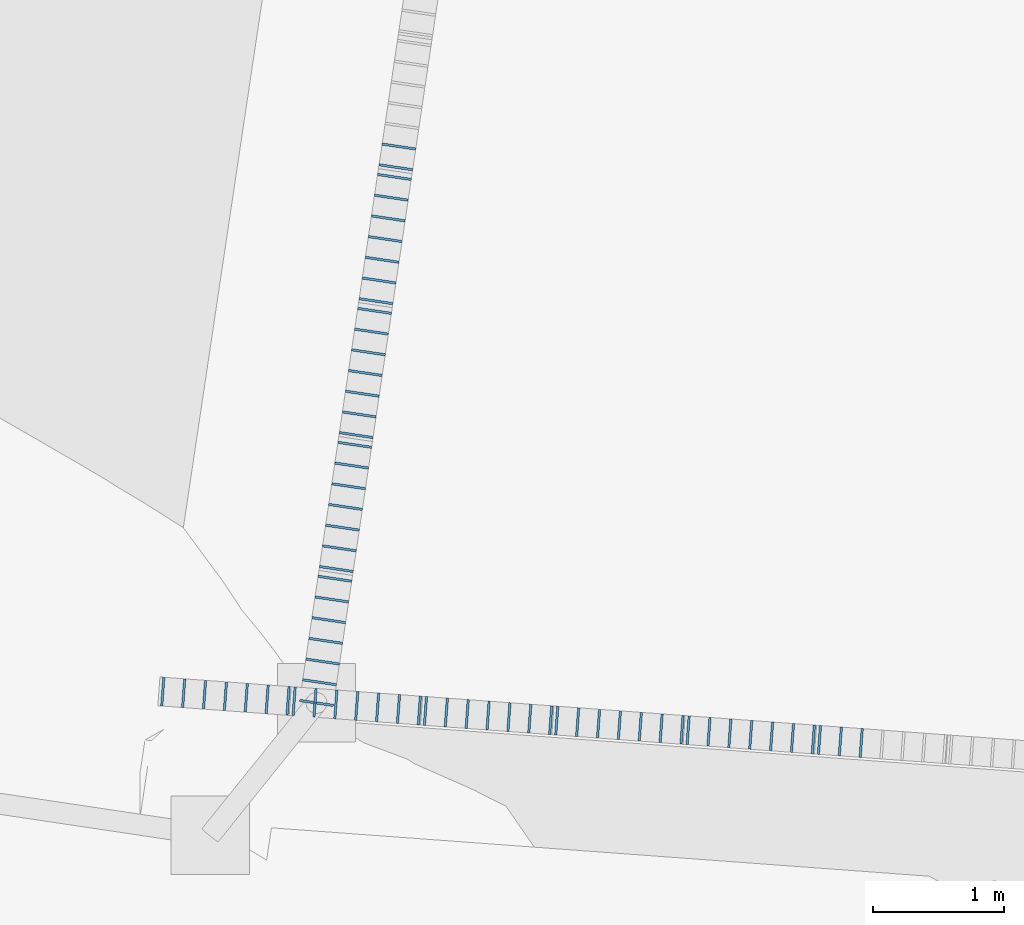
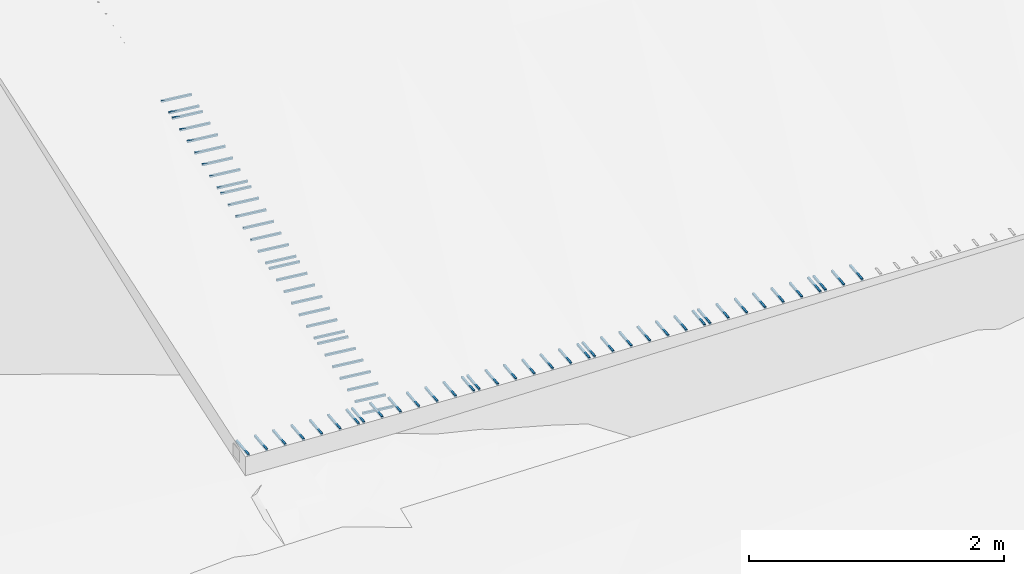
# Not in any storey, part 15 of 72: 68 members.
"""IFC4 model written with IfcOpenShell, lengths in metres."""

import ifcopenshell
import ifcopenshell.guid

model = None  # the IFC model being written
_history = None  # IfcOwnerHistory: only IFC2X3 demands one
_inside = {}  # id of a spatial element -> (the spatial element, [elements in it])
_under = {}  # id of a project, library or spatial element -> (it, [spatial elements below it])
_declared = {}  # id of a project -> (the project, [libraries it declares])
_typed = {}  # id of a type object -> (the type object, [elements of that type])
_made_of = {}  # id of a material, layer set ... -> (it, [elements and type objects made of it])


def new_model(schema):
    """Start an empty IFC model of exactly this schema.

    Asked for "IFC4X3", IfcOpenShell would pick the latest addendum, in which some entities
    have other attributes; the version numbers below select the first issue.
    IFC2X3 requires an IfcOwnerHistory on every rooted entity: one is made here for all.
    """
    global model, _history
    if schema == "IFC4X3":
        model = ifcopenshell.file(schema_version=(4, 3, 0, 0))
    else:
        model = ifcopenshell.file(schema=schema)
    _inside.clear()
    _under.clear()
    _declared.clear()
    _typed.clear()
    _made_of.clear()
    _history = None
    if model.schema == "IFC2X3":
        org = make("IfcOrganization", Name="unknown")
        user = make(
            "IfcPersonAndOrganization",
            ThePerson=make("IfcPerson", FamilyName="unknown"),
            TheOrganization=org,
        )
        app = make(
            "IfcApplication",
            ApplicationDeveloper=org,
            Version="unknown",
            ApplicationFullName="unknown",
            ApplicationIdentifier="unknown",
        )
        _history = make(
            "IfcOwnerHistory",
            OwningUser=user,
            OwningApplication=app,
            ChangeAction="ADDED",
            CreationDate=0,
        )
    return model


def make(cls, **values):
    """One entity of the class cls with the attributes given. An attribute that is None is left unset."""
    return model.create_entity(
        cls, **{name: value for name, value in values.items() if value is not None}
    )


def rooted(cls, **values):
    """An entity with a GlobalId (a new one), such as an element, a storey or a relation."""
    return make(cls, GlobalId=ifcopenshell.guid.new(), OwnerHistory=_history, **values)


def si_unit(unit_type, name, prefix=None):
    """IfcSIUnit, for example si_unit("LENGTHUNIT", "METRE", prefix="MILLI")."""
    return make("IfcSIUnit", UnitType=unit_type, Prefix=prefix, Name=name)


def assignment(units):
    """IfcUnitAssignment: the units of a project."""
    return None if units is None else make("IfcUnitAssignment", Units=units)


def point(xyz):
    """IfcCartesianPoint."""
    return None if xyz is None else make("IfcCartesianPoint", Coordinates=xyz)


def direction(xyz):
    """IfcDirection."""
    return None if xyz is None else make("IfcDirection", DirectionRatios=xyz)


def frame(location, z_axis=None, x_axis=None):
    """IfcAxis2Placement3D, a coordinate frame: its origin and axes. An axis left out is left unset."""
    return make(
        "IfcAxis2Placement3D",
        Location=point(location),
        Axis=direction(z_axis),
        RefDirection=direction(x_axis),
    )


def origin_with_axes():
    """The frame at (0, 0, 0) with the z axis (0, 0, 1) and the x axis (1, 0, 0) written out."""
    return frame((0.0, 0.0, 0.0), z_axis=(0.0, 0.0, 1.0), x_axis=(1.0, 0.0, 0.0))


def place(relative_to, where):
    """IfcLocalPlacement: puts the frame where relative to a parent placement (None: the world)."""
    return make(
        "IfcLocalPlacement", PlacementRelTo=relative_to, RelativePlacement=where
    )


def context(
    kind, dimensions, precision=None, world=None, true_north=None, identifier=None
):
    """IfcGeometricRepresentationContext, for example the 3D "Model" context."""
    return make(
        "IfcGeometricRepresentationContext",
        ContextIdentifier=identifier,
        ContextType=kind,
        CoordinateSpaceDimension=dimensions,
        Precision=precision,
        WorldCoordinateSystem=world,
        TrueNorth=true_north,
    )


def subcontext(parent, identifier, kind, view, scale=None):
    """IfcGeometricRepresentationSubContext, for example "Body" below "Model"."""
    return make(
        "IfcGeometricRepresentationSubContext",
        ContextIdentifier=identifier,
        ContextType=kind,
        ParentContext=parent,
        TargetScale=scale,
        TargetView=view,
    )


def project(units=None, contexts=None):
    """IfcProject with its units and contexts."""
    return rooted(
        "IfcProject",
        Name="project",
        RepresentationContexts=contexts,
        UnitsInContext=assignment(units),
    )


def spatial(cls, under=None, at=None, **own):
    """A site, building, storey or space (cls), placed at a placement, below another one or the project."""
    s = rooted(cls, ObjectPlacement=at, **own)
    if under is not None:
        _under.setdefault(under.id(), (under, []))[1].append(s)
    return s


def profile(cls, at=None, kind="AREA", **sizes):
    """A parametric profile (cls). Its sizes go by their IFC names, for example OverallWidth=200.0."""
    return make(cls, ProfileType=kind, Position=at, **sizes)


def rectangle(**sizes):
    """IfcRectangleProfileDef."""
    return profile("IfcRectangleProfileDef", **sizes)


def extrude(swept, where, along, depth):
    """IfcExtrudedAreaSolid: the profile swept, set in the frame where, extruded along a direction by depth."""
    return make(
        "IfcExtrudedAreaSolid",
        SweptArea=swept,
        Position=where,
        ExtrudedDirection=direction(along),
        Depth=depth,
    )


def shape(context_of_items, identifier, shape_type, items):
    """IfcShapeRepresentation: the items that make up one representation, for example the "Body"."""
    return make(
        "IfcShapeRepresentation",
        ContextOfItems=context_of_items,
        RepresentationIdentifier=identifier,
        RepresentationType=shape_type,
        Items=items,
    )


def material(Name=None, Category=None):
    """IfcMaterial."""
    return make("IfcMaterial", Name=Name, Category=Category)


def material_profile(
    of_material, cross_section, Name=None, Category=None, Priority=None
):
    """IfcMaterialProfile: a cross section and its material."""
    return make(
        "IfcMaterialProfile",
        Name=Name,
        Material=of_material,
        Profile=cross_section,
        Priority=Priority,
        Category=Category,
    )


def profile_set(profiles, Name=None, composite=None):
    """IfcMaterialProfileSet."""
    return make(
        "IfcMaterialProfileSet",
        Name=Name,
        MaterialProfiles=profiles,
        CompositeProfile=composite,
    )


def profile_usage(for_profile_set, cardinal=None, extent=None):
    """IfcMaterialProfileSetUsage: how a profile set lies along its element."""
    return make(
        "IfcMaterialProfileSetUsage",
        ForProfileSet=for_profile_set,
        CardinalPoint=cardinal,
        ReferenceExtent=extent,
    )


def made_of(thing, what):
    """Note that an element or type object is made of a material, layer set ...; save() writes the relation."""
    if what is not None:
        _made_of.setdefault(what.id(), (what, []))[1].append(thing)
    return thing


def type_object(cls, material=None, **own):
    """A type object (cls), such as IfcWallType, which elements share."""
    return made_of(rooted(cls, **own), material)


def element(
    cls,
    number,
    at=None,
    inside=None,
    cuts=None,
    type_object=None,
    material=None,
    context=None,
    identifier="Body",
    shape_type=None,
    held_by="IfcProductDefinitionShape",
    body=None,
    shapes=None,
    **own,
):
    """One element of the class cls, such as IfcWall. Its Tag is "e" and its number.

    at: its placement. inside: the storey or other place that contains it. cuts: it is an
    opening in that element (IfcRelVoidsElement). A single representation is given by context,
    identifier, shape_type and body (its items); several are given by shapes. held_by: the class
    of the entity that holds the representations. save() writes the other relations.
    """
    e = rooted(cls, Tag="e%d" % number, ObjectPlacement=at, **own)
    if body is not None:
        shapes = [shape(context, identifier, shape_type, body)]
    if shapes is not None:
        e.Representation = make(held_by, Representations=shapes)
    if inside is not None:
        _inside.setdefault(inside.id(), (inside, []))[1].append(e)
    if cuts is not None:
        rooted(
            "IfcRelVoidsElement", RelatingBuildingElement=cuts, RelatedOpeningElement=e
        )
    if type_object is not None:
        _typed.setdefault(type_object.id(), (type_object, []))[1].append(e)
    return made_of(e, material)


def aggregate(whole, parts):
    """IfcRelAggregates: a whole, such as a stair, and the parts it consists of."""
    return rooted("IfcRelAggregates", RelatingObject=whole, RelatedObjects=parts)


def save(model, path):
    """Write the relations noted so far, then the file.

    IfcRelAggregates (storeys below a building ...), IfcRelContainedInSpatialStructure (elements
    in a storey), IfcRelDefinesByType, IfcRelAssociatesMaterial and IfcRelDeclares: one each for
    every whole, place, type object, material and project.
    """
    for whole, parts in _under.values():
        aggregate(whole, parts)
    for where, things in _inside.values():
        rooted(
            "IfcRelContainedInSpatialStructure",
            RelatedElements=things,
            RelatingStructure=where,
        )
    for kind, things in _typed.values():
        rooted("IfcRelDefinesByType", RelatedObjects=things, RelatingType=kind)
    for what, things in _made_of.values():
        rooted("IfcRelAssociatesMaterial", RelatedObjects=things, RelatingMaterial=what)
    for by, libraries in _declared.values():
        rooted("IfcRelDeclares", RelatingContext=by, RelatedDefinitions=libraries)
    model.write(path)


model = new_model("IFC4")

# Units and contexts
model_context = context("Model", 3, precision=1e-05, world=origin_with_axes(), true_north=direction((0.0, 1.0)))
body_context = subcontext(model_context, "Body", "Model", "MODEL_VIEW")
ifc_project = project(units=[si_unit("AREAUNIT", "SQUARE_METRE"), si_unit("VOLUMEUNIT", "CUBIC_METRE"), si_unit("LENGTHUNIT", "METRE")], contexts=[model_context])

# Site
site_placement = place(None, origin_with_axes())
site = spatial("IfcSite", under=ifc_project, at=site_placement, Name="Lares · Rua das Mercês · artigo 4771")

# Members
ifc_material = material(Name="Aço galvanizado / Stahl verzinkt", Category="steel")
ifc_material_profile = material_profile(ifc_material, rectangle(XDim=0.018, YDim=0.018))
ifc_profile_set = profile_set([ifc_material_profile], Name="R0.018")
ifc_profile_usage_1 = profile_usage(ifc_profile_set)
member_type = type_object("IfcMemberType", Name="R0.018 / galvanized", PredefinedType="NOTDEFINED", material=ifc_profile_set)
member_1_placement = place(site_placement, frame((46.6781659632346, 3.21903756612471, 14.4967569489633), z_axis=(0.0733060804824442, 0.997309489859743, 0.0), x_axis=(0.997309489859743, -0.0733060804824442, 0.0)))
element("IfcMember", 1, at=member_1_placement, inside=site, type_object=member_type, material=ifc_profile_usage_1, Name="Acesso · dreno lateral raso · grelha", context=body_context, shape_type="SweptSolid", body=[
    extrude(rectangle(XDim=0.018, YDim=0.018), origin_with_axes(), (0.0, 0.0, 1.0), 0.22),
])
ifc_profile_usage_2 = profile_usage(ifc_profile_set)
member_2_placement = place(site_placement, frame((46.8377354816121, 3.20730859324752, 14.4975940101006), z_axis=(0.0733060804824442, 0.997309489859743, 0.0), x_axis=(0.997309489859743, -0.0733060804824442, 0.0)))
element("IfcMember", 2, at=member_2_placement, inside=site, type_object=member_type, material=ifc_profile_usage_2, Name="Acesso · dreno lateral raso · grelha", context=body_context, shape_type="SweptSolid", body=[
    extrude(rectangle(XDim=0.018, YDim=0.018), origin_with_axes(), (0.0, 0.0, 1.0), 0.22),
])
ifc_profile_usage_3 = profile_usage(ifc_profile_set)
member_3_placement = place(site_placement, frame((46.9973049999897, 3.19557962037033, 14.498431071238), z_axis=(0.0733060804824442, 0.997309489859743, 0.0), x_axis=(0.997309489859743, -0.0733060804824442, 0.0)))
element("IfcMember", 3, at=member_3_placement, inside=site, type_object=member_type, material=ifc_profile_usage_3, Name="Acesso · dreno lateral raso · grelha", context=body_context, shape_type="SweptSolid", body=[
    extrude(rectangle(XDim=0.018, YDim=0.018), origin_with_axes(), (0.0, 0.0, 1.0), 0.22),
])
ifc_profile_usage_4 = profile_usage(ifc_profile_set)
member_4_placement = place(site_placement, frame((47.1568745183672, 3.18385064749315, 14.4992681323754), z_axis=(0.0733060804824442, 0.997309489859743, 0.0), x_axis=(0.997309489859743, -0.0733060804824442, 0.0)))
element("IfcMember", 4, at=member_4_placement, inside=site, type_object=member_type, material=ifc_profile_usage_4, Name="Acesso · dreno lateral raso · grelha", context=body_context, shape_type="SweptSolid", body=[
    extrude(rectangle(XDim=0.018, YDim=0.018), origin_with_axes(), (0.0, 0.0, 1.0), 0.22),
])
ifc_profile_usage_5 = profile_usage(ifc_profile_set)
member_5_placement = place(site_placement, frame((47.3164440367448, 3.17212167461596, 14.5001051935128), z_axis=(0.0733060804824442, 0.997309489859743, 0.0), x_axis=(0.997309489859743, -0.0733060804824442, 0.0)))
element("IfcMember", 5, at=member_5_placement, inside=site, type_object=member_type, material=ifc_profile_usage_5, Name="Acesso · dreno lateral raso · grelha", context=body_context, shape_type="SweptSolid", body=[
    extrude(rectangle(XDim=0.018, YDim=0.018), origin_with_axes(), (0.0, 0.0, 1.0), 0.22),
])
ifc_profile_usage_6 = profile_usage(ifc_profile_set)
member_6_placement = place(site_placement, frame((47.4760135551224, 3.16039270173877, 14.5009422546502), z_axis=(0.0733060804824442, 0.997309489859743, 0.0), x_axis=(0.997309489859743, -0.0733060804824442, 0.0)))
element("IfcMember", 6, at=member_6_placement, inside=site, type_object=member_type, material=ifc_profile_usage_6, Name="Acesso · dreno lateral raso · grelha", context=body_context, shape_type="SweptSolid", body=[
    extrude(rectangle(XDim=0.018, YDim=0.018), origin_with_axes(), (0.0, 0.0, 1.0), 0.22),
])
ifc_profile_usage_7 = profile_usage(ifc_profile_set)
member_7_placement = place(site_placement, frame((47.6355830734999, 3.14866372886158, 14.5017793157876), z_axis=(0.0733060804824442, 0.997309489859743, 0.0), x_axis=(0.997309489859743, -0.0733060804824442, 0.0)))
element("IfcMember", 7, at=member_7_placement, inside=site, type_object=member_type, material=ifc_profile_usage_7, Name="Acesso · dreno lateral raso · grelha", context=body_context, shape_type="SweptSolid", body=[
    extrude(rectangle(XDim=0.018, YDim=0.018), origin_with_axes(), (0.0, 0.0, 1.0), 0.22),
])
ifc_profile_usage_8 = profile_usage(ifc_profile_set)
member_8_placement = place(site_placement, frame((47.6823379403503, 3.14522706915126, 14.5020796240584), z_axis=(0.0733059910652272, 0.997309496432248, 0.0), x_axis=(0.997309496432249, -0.0733059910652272, 0.0)))
element("IfcMember", 8, at=member_8_placement, inside=site, type_object=member_type, material=ifc_profile_usage_8, Name="Acesso · dreno lateral raso · grelha", context=body_context, shape_type="SweptSolid", body=[
    extrude(rectangle(XDim=0.018, YDim=0.018), origin_with_axes(), (0.0, 0.0, 1.0), 0.22),
])
ifc_profile_usage_9 = profile_usage(ifc_profile_set)
member_9_placement = place(site_placement, frame((47.8419074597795, 3.13349811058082, 14.5032102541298), z_axis=(0.0733059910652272, 0.997309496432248, 0.0), x_axis=(0.997309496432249, -0.0733059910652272, 0.0)))
element("IfcMember", 9, at=member_9_placement, inside=site, type_object=member_type, material=ifc_profile_usage_9, Name="Acesso · dreno lateral raso · grelha", context=body_context, shape_type="SweptSolid", body=[
    extrude(rectangle(XDim=0.018, YDim=0.018), origin_with_axes(), (0.0, 0.0, 1.0), 0.22),
])
ifc_profile_usage_10 = profile_usage(ifc_profile_set)
member_10_placement = place(site_placement, frame((48.0014769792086, 3.12176915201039, 14.5043408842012), z_axis=(0.0733059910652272, 0.997309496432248, 0.0), x_axis=(0.997309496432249, -0.0733059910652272, 0.0)))
element("IfcMember", 10, at=member_10_placement, inside=site, type_object=member_type, material=ifc_profile_usage_10, Name="Acesso · dreno lateral raso · grelha", context=body_context, shape_type="SweptSolid", body=[
    extrude(rectangle(XDim=0.018, YDim=0.018), origin_with_axes(), (0.0, 0.0, 1.0), 0.22),
])
ifc_profile_usage_11 = profile_usage(ifc_profile_set)
member_11_placement = place(site_placement, frame((48.1610464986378, 3.11004019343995, 14.5054715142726), z_axis=(0.0733059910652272, 0.997309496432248, 0.0), x_axis=(0.997309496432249, -0.0733059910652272, 0.0)))
element("IfcMember", 11, at=member_11_placement, inside=site, type_object=member_type, material=ifc_profile_usage_11, Name="Acesso · dreno lateral raso · grelha", context=body_context, shape_type="SweptSolid", body=[
    extrude(rectangle(XDim=0.018, YDim=0.018), origin_with_axes(), (0.0, 0.0, 1.0), 0.22),
])
ifc_profile_usage_12 = profile_usage(ifc_profile_set)
member_12_placement = place(site_placement, frame((48.3206160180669, 3.09831123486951, 14.506602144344), z_axis=(0.0733059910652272, 0.997309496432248, 0.0), x_axis=(0.997309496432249, -0.0733059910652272, 0.0)))
element("IfcMember", 12, at=member_12_placement, inside=site, type_object=member_type, material=ifc_profile_usage_12, Name="Acesso · dreno lateral raso · grelha", context=body_context, shape_type="SweptSolid", body=[
    extrude(rectangle(XDim=0.018, YDim=0.018), origin_with_axes(), (0.0, 0.0, 1.0), 0.22),
])
ifc_profile_usage_13 = profile_usage(ifc_profile_set)
member_13_placement = place(site_placement, frame((48.4801855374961, 3.08658227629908, 14.5077327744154), z_axis=(0.0733059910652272, 0.997309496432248, 0.0), x_axis=(0.997309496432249, -0.0733059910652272, 0.0)))
element("IfcMember", 13, at=member_13_placement, inside=site, type_object=member_type, material=ifc_profile_usage_13, Name="Acesso · dreno lateral raso · grelha", context=body_context, shape_type="SweptSolid", body=[
    extrude(rectangle(XDim=0.018, YDim=0.018), origin_with_axes(), (0.0, 0.0, 1.0), 0.22),
])
ifc_profile_usage_14 = profile_usage(ifc_profile_set)
member_14_placement = place(site_placement, frame((48.6397550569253, 3.07485331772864, 14.5088634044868), z_axis=(0.0733059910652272, 0.997309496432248, 0.0), x_axis=(0.997309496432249, -0.0733059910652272, 0.0)))
element("IfcMember", 14, at=member_14_placement, inside=site, type_object=member_type, material=ifc_profile_usage_14, Name="Acesso · dreno lateral raso · grelha", context=body_context, shape_type="SweptSolid", body=[
    extrude(rectangle(XDim=0.018, YDim=0.018), origin_with_axes(), (0.0, 0.0, 1.0), 0.22),
])
ifc_profile_usage_15 = profile_usage(ifc_profile_set)
member_15_placement = place(site_placement, frame((48.6865066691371, 3.07141690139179, 14.5092497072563), z_axis=(0.073305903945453, 0.997309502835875, 0.0), x_axis=(0.997309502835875, -0.073305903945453, 0.0)))
element("IfcMember", 15, at=member_15_placement, inside=site, type_object=member_type, material=ifc_profile_usage_15, Name="Acesso · dreno lateral raso · grelha", context=body_context, shape_type="SweptSolid", body=[
    extrude(rectangle(XDim=0.018, YDim=0.018), origin_with_axes(), (0.0, 0.0, 1.0), 0.22),
])
ifc_profile_usage_16 = profile_usage(ifc_profile_set)
member_16_placement = place(site_placement, frame((48.8460761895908, 3.05968795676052, 14.5106739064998), z_axis=(0.073305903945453, 0.997309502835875, 0.0), x_axis=(0.997309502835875, -0.073305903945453, 0.0)))
element("IfcMember", 16, at=member_16_placement, inside=site, type_object=member_type, material=ifc_profile_usage_16, Name="Acesso · dreno lateral raso · grelha", context=body_context, shape_type="SweptSolid", body=[
    extrude(rectangle(XDim=0.018, YDim=0.018), origin_with_axes(), (0.0, 0.0, 1.0), 0.22),
])
ifc_profile_usage_17 = profile_usage(ifc_profile_set)
member_17_placement = place(site_placement, frame((49.0056457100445, 3.04795901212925, 14.5120981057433), z_axis=(0.073305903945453, 0.997309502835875, 0.0), x_axis=(0.997309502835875, -0.073305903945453, 0.0)))
element("IfcMember", 17, at=member_17_placement, inside=site, type_object=member_type, material=ifc_profile_usage_17, Name="Acesso · dreno lateral raso · grelha", context=body_context, shape_type="SweptSolid", body=[
    extrude(rectangle(XDim=0.018, YDim=0.018), origin_with_axes(), (0.0, 0.0, 1.0), 0.22),
])
ifc_profile_usage_18 = profile_usage(ifc_profile_set)
member_18_placement = place(site_placement, frame((49.1652152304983, 3.03623006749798, 14.5135223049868), z_axis=(0.073305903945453, 0.997309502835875, 0.0), x_axis=(0.997309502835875, -0.073305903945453, 0.0)))
element("IfcMember", 18, at=member_18_placement, inside=site, type_object=member_type, material=ifc_profile_usage_18, Name="Acesso · dreno lateral raso · grelha", context=body_context, shape_type="SweptSolid", body=[
    extrude(rectangle(XDim=0.018, YDim=0.018), origin_with_axes(), (0.0, 0.0, 1.0), 0.22),
])
ifc_profile_usage_19 = profile_usage(ifc_profile_set)
member_19_placement = place(site_placement, frame((49.324784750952, 3.02450112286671, 14.5149465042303), z_axis=(0.073305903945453, 0.997309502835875, 0.0), x_axis=(0.997309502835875, -0.073305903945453, 0.0)))
element("IfcMember", 19, at=member_19_placement, inside=site, type_object=member_type, material=ifc_profile_usage_19, Name="Acesso · dreno lateral raso · grelha", context=body_context, shape_type="SweptSolid", body=[
    extrude(rectangle(XDim=0.018, YDim=0.018), origin_with_axes(), (0.0, 0.0, 1.0), 0.22),
])
ifc_profile_usage_20 = profile_usage(ifc_profile_set)
member_20_placement = place(site_placement, frame((49.4843542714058, 3.01277217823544, 14.5163707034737), z_axis=(0.073305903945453, 0.997309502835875, 0.0), x_axis=(0.997309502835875, -0.073305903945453, 0.0)))
element("IfcMember", 20, at=member_20_placement, inside=site, type_object=member_type, material=ifc_profile_usage_20, Name="Acesso · dreno lateral raso · grelha", context=body_context, shape_type="SweptSolid", body=[
    extrude(rectangle(XDim=0.018, YDim=0.018), origin_with_axes(), (0.0, 0.0, 1.0), 0.22),
])
ifc_profile_usage_21 = profile_usage(ifc_profile_set)
member_21_placement = place(site_placement, frame((49.6439237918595, 3.00104323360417, 14.5177949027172), z_axis=(0.073305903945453, 0.997309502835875, 0.0), x_axis=(0.997309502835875, -0.073305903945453, 0.0)))
element("IfcMember", 21, at=member_21_placement, inside=site, type_object=member_type, material=ifc_profile_usage_21, Name="Acesso · dreno lateral raso · grelha", context=body_context, shape_type="SweptSolid", body=[
    extrude(rectangle(XDim=0.018, YDim=0.018), origin_with_axes(), (0.0, 0.0, 1.0), 0.22),
])
ifc_profile_usage_22 = profile_usage(ifc_profile_set)
member_22_placement = place(site_placement, frame((49.6906720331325, 2.99760706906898, 14.5182671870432), z_axis=(0.073305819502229, 0.997309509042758, 0.0), x_axis=(0.997309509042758, -0.073305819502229, 0.0)))
element("IfcMember", 22, at=member_22_placement, inside=site, type_object=member_type, material=ifc_profile_usage_22, Name="Acesso · dreno lateral raso · grelha", context=body_context, shape_type="SweptSolid", body=[
    extrude(rectangle(XDim=0.018, YDim=0.018), origin_with_axes(), (0.0, 0.0, 1.0), 0.22),
])
ifc_profile_usage_23 = profile_usage(ifc_profile_set)
member_23_placement = place(site_placement, frame((49.8502415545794, 2.98587813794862, 14.5199849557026), z_axis=(0.073305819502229, 0.997309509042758, 0.0), x_axis=(0.997309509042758, -0.073305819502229, 0.0)))
element("IfcMember", 23, at=member_23_placement, inside=site, type_object=member_type, material=ifc_profile_usage_23, Name="Acesso · dreno lateral raso · grelha", context=body_context, shape_type="SweptSolid", body=[
    extrude(rectangle(XDim=0.018, YDim=0.018), origin_with_axes(), (0.0, 0.0, 1.0), 0.22),
])
ifc_profile_usage_24 = profile_usage(ifc_profile_set)
member_24_placement = place(site_placement, frame((50.0098110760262, 2.97414920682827, 14.521702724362), z_axis=(0.073305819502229, 0.997309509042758, 0.0), x_axis=(0.997309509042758, -0.073305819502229, 0.0)))
element("IfcMember", 24, at=member_24_placement, inside=site, type_object=member_type, material=ifc_profile_usage_24, Name="Acesso · dreno lateral raso · grelha", context=body_context, shape_type="SweptSolid", body=[
    extrude(rectangle(XDim=0.018, YDim=0.018), origin_with_axes(), (0.0, 0.0, 1.0), 0.22),
])
ifc_profile_usage_25 = profile_usage(ifc_profile_set)
member_25_placement = place(site_placement, frame((50.169380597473, 2.96242027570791, 14.5234204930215), z_axis=(0.073305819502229, 0.997309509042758, 0.0), x_axis=(0.997309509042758, -0.073305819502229, 0.0)))
element("IfcMember", 25, at=member_25_placement, inside=site, type_object=member_type, material=ifc_profile_usage_25, Name="Acesso · dreno lateral raso · grelha", context=body_context, shape_type="SweptSolid", body=[
    extrude(rectangle(XDim=0.018, YDim=0.018), origin_with_axes(), (0.0, 0.0, 1.0), 0.22),
])
ifc_profile_usage_26 = profile_usage(ifc_profile_set)
member_26_placement = place(site_placement, frame((50.3289501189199, 2.95069134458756, 14.5251382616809), z_axis=(0.073305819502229, 0.997309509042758, 0.0), x_axis=(0.997309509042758, -0.073305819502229, 0.0)))
element("IfcMember", 26, at=member_26_placement, inside=site, type_object=member_type, material=ifc_profile_usage_26, Name="Acesso · dreno lateral raso · grelha", context=body_context, shape_type="SweptSolid", body=[
    extrude(rectangle(XDim=0.018, YDim=0.018), origin_with_axes(), (0.0, 0.0, 1.0), 0.22),
])
ifc_profile_usage_27 = profile_usage(ifc_profile_set)
member_27_placement = place(site_placement, frame((50.4885196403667, 2.9389624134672, 14.5268560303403), z_axis=(0.073305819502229, 0.997309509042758, 0.0), x_axis=(0.997309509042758, -0.073305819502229, 0.0)))
element("IfcMember", 27, at=member_27_placement, inside=site, type_object=member_type, material=ifc_profile_usage_27, Name="Acesso · dreno lateral raso · grelha", context=body_context, shape_type="SweptSolid", body=[
    extrude(rectangle(XDim=0.018, YDim=0.018), origin_with_axes(), (0.0, 0.0, 1.0), 0.22),
])
ifc_profile_usage_28 = profile_usage(ifc_profile_set)
member_28_placement = place(site_placement, frame((50.6480891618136, 2.92723348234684, 14.5285737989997), z_axis=(0.073305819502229, 0.997309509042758, 0.0), x_axis=(0.997309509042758, -0.073305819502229, 0.0)))
element("IfcMember", 28, at=member_28_placement, inside=site, type_object=member_type, material=ifc_profile_usage_28, Name="Acesso · dreno lateral raso · grelha", context=body_context, shape_type="SweptSolid", body=[
    extrude(rectangle(XDim=0.018, YDim=0.018), origin_with_axes(), (0.0, 0.0, 1.0), 0.22),
])
ifc_profile_usage_29 = profile_usage(ifc_profile_set)
member_29_placement = place(site_placement, frame((50.6948339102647, 2.92379757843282, 14.5291320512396), z_axis=(0.0733057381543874, 0.997309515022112, 0.0), x_axis=(0.997309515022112, -0.0733057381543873, 0.0)))
element("IfcMember", 29, at=member_29_placement, inside=site, type_object=member_type, material=ifc_profile_usage_29, Name="Acesso · dreno lateral raso · grelha", context=body_context, shape_type="SweptSolid", body=[
    extrude(rectangle(XDim=0.018, YDim=0.018), origin_with_axes(), (0.0, 0.0, 1.0), 0.22),
])
ifc_profile_usage_30 = profile_usage(ifc_profile_set)
member_30_placement = place(site_placement, frame((50.8544034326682, 2.91206866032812, 14.5311433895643), z_axis=(0.0733057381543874, 0.997309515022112, 0.0), x_axis=(0.997309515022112, -0.0733057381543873, 0.0)))
element("IfcMember", 30, at=member_30_placement, inside=site, type_object=member_type, material=ifc_profile_usage_30, Name="Acesso · dreno lateral raso · grelha", context=body_context, shape_type="SweptSolid", body=[
    extrude(rectangle(XDim=0.018, YDim=0.018), origin_with_axes(), (0.0, 0.0, 1.0), 0.22),
])
ifc_profile_usage_31 = profile_usage(ifc_profile_set)
member_31_placement = place(site_placement, frame((51.0139729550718, 2.90033974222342, 14.533154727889), z_axis=(0.0733057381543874, 0.997309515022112, 0.0), x_axis=(0.997309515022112, -0.0733057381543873, 0.0)))
element("IfcMember", 31, at=member_31_placement, inside=site, type_object=member_type, material=ifc_profile_usage_31, Name="Acesso · dreno lateral raso · grelha", context=body_context, shape_type="SweptSolid", body=[
    extrude(rectangle(XDim=0.018, YDim=0.018), origin_with_axes(), (0.0, 0.0, 1.0), 0.22),
])
ifc_profile_usage_32 = profile_usage(ifc_profile_set)
member_32_placement = place(site_placement, frame((51.1735424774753, 2.88861082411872, 14.5351660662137), z_axis=(0.0733057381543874, 0.997309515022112, 0.0), x_axis=(0.997309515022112, -0.0733057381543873, 0.0)))
element("IfcMember", 32, at=member_32_placement, inside=site, type_object=member_type, material=ifc_profile_usage_32, Name="Acesso · dreno lateral raso · grelha", context=body_context, shape_type="SweptSolid", body=[
    extrude(rectangle(XDim=0.018, YDim=0.018), origin_with_axes(), (0.0, 0.0, 1.0), 0.22),
])
ifc_profile_usage_33 = profile_usage(ifc_profile_set)
member_33_placement = place(site_placement, frame((51.3331119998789, 2.87688190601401, 14.5371774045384), z_axis=(0.0733057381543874, 0.997309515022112, 0.0), x_axis=(0.997309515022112, -0.0733057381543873, 0.0)))
element("IfcMember", 33, at=member_33_placement, inside=site, type_object=member_type, material=ifc_profile_usage_33, Name="Acesso · dreno lateral raso · grelha", context=body_context, shape_type="SweptSolid", body=[
    extrude(rectangle(XDim=0.018, YDim=0.018), origin_with_axes(), (0.0, 0.0, 1.0), 0.22),
])
ifc_profile_usage_34 = profile_usage(ifc_profile_set)
member_34_placement = place(site_placement, frame((51.4926815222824, 2.86515298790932, 14.5391887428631), z_axis=(0.0733057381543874, 0.997309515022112, 0.0), x_axis=(0.997309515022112, -0.0733057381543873, 0.0)))
element("IfcMember", 34, at=member_34_placement, inside=site, type_object=member_type, material=ifc_profile_usage_34, Name="Acesso · dreno lateral raso · grelha", context=body_context, shape_type="SweptSolid", body=[
    extrude(rectangle(XDim=0.018, YDim=0.018), origin_with_axes(), (0.0, 0.0, 1.0), 0.22),
])
ifc_profile_usage_35 = profile_usage(ifc_profile_set)
member_35_placement = place(site_placement, frame((51.6522510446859, 2.85342406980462, 14.5412000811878), z_axis=(0.0733057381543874, 0.997309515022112, 0.0), x_axis=(0.997309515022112, -0.0733057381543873, 0.0)))
element("IfcMember", 35, at=member_35_placement, inside=site, type_object=member_type, material=ifc_profile_usage_35, Name="Acesso · dreno lateral raso · grelha", context=body_context, shape_type="SweptSolid", body=[
    extrude(rectangle(XDim=0.018, YDim=0.018), origin_with_axes(), (0.0, 0.0, 1.0), 0.22),
])
ifc_profile_usage_36 = profile_usage(ifc_profile_set)
member_36_placement = place(site_placement, frame((51.6989921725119, 2.84998843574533, 14.5418442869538), z_axis=(0.0733056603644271, 0.997309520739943, 0.0), x_axis=(0.997309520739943, -0.0733056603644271, 0.0)))
element("IfcMember", 36, at=member_36_placement, inside=site, type_object=member_type, material=ifc_profile_usage_36, Name="Acesso · dreno lateral raso · grelha", context=body_context, shape_type="SweptSolid", body=[
    extrude(rectangle(XDim=0.018, YDim=0.018), origin_with_axes(), (0.0, 0.0, 1.0), 0.22),
])
ifc_profile_usage_37 = profile_usage(ifc_profile_set)
member_37_placement = place(site_placement, frame((51.8585616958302, 2.83825953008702, 14.5441491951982), z_axis=(0.0733056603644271, 0.997309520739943, 0.0), x_axis=(0.997309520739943, -0.0733056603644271, 0.0)))
element("IfcMember", 37, at=member_37_placement, inside=site, type_object=member_type, material=ifc_profile_usage_37, Name="Acesso · dreno lateral raso · grelha", context=body_context, shape_type="SweptSolid", body=[
    extrude(rectangle(XDim=0.018, YDim=0.018), origin_with_axes(), (0.0, 0.0, 1.0), 0.22),
])
ifc_profile_usage_38 = profile_usage(ifc_profile_set)
member_38_placement = place(site_placement, frame((52.0181312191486, 2.82653062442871, 14.5464541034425), z_axis=(0.0733056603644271, 0.997309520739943, 0.0), x_axis=(0.997309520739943, -0.0733056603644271, 0.0)))
element("IfcMember", 38, at=member_38_placement, inside=site, type_object=member_type, material=ifc_profile_usage_38, Name="Acesso · dreno lateral raso · grelha", context=body_context, shape_type="SweptSolid", body=[
    extrude(rectangle(XDim=0.018, YDim=0.018), origin_with_axes(), (0.0, 0.0, 1.0), 0.22),
])
ifc_profile_usage_39 = profile_usage(ifc_profile_set)
member_39_placement = place(site_placement, frame((47.9899128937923, 3.22331773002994, 14.5031428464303), z_axis=(-0.989204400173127, 0.146542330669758, 0.0), x_axis=(0.146542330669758, 0.989204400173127, 0.0)))
element("IfcMember", 39, at=member_39_placement, inside=site, type_object=member_type, material=ifc_profile_usage_39, Name="Interceção · caleira estacionamento · grelha", context=body_context, shape_type="SweptSolid", body=[
    extrude(rectangle(XDim=0.018, YDim=0.018), origin_with_axes(), (0.0, 0.0, 1.0), 0.260000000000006),
])
ifc_profile_usage_40 = profile_usage(ifc_profile_set)
member_40_placement = place(site_placement, frame((48.0133596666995, 3.38159043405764, 14.5103716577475), z_axis=(-0.989204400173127, 0.146542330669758, 0.0), x_axis=(0.146542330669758, 0.989204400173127, 0.0)))
element("IfcMember", 40, at=member_40_placement, inside=site, type_object=member_type, material=ifc_profile_usage_40, Name="Interceção · caleira estacionamento · grelha", context=body_context, shape_type="SweptSolid", body=[
    extrude(rectangle(XDim=0.018, YDim=0.018), origin_with_axes(), (0.0, 0.0, 1.0), 0.260000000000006),
])
ifc_profile_usage_41 = profile_usage(ifc_profile_set)
member_41_placement = place(site_placement, frame((48.0368064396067, 3.53986313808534, 14.5176004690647), z_axis=(-0.989204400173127, 0.146542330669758, 0.0), x_axis=(0.146542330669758, 0.989204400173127, 0.0)))
element("IfcMember", 41, at=member_41_placement, inside=site, type_object=member_type, material=ifc_profile_usage_41, Name="Interceção · caleira estacionamento · grelha", context=body_context, shape_type="SweptSolid", body=[
    extrude(rectangle(XDim=0.018, YDim=0.018), origin_with_axes(), (0.0, 0.0, 1.0), 0.260000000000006),
])
ifc_profile_usage_42 = profile_usage(ifc_profile_set)
member_42_placement = place(site_placement, frame((48.0602532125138, 3.69813584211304, 14.524829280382), z_axis=(-0.989204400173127, 0.146542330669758, 0.0), x_axis=(0.146542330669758, 0.989204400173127, 0.0)))
element("IfcMember", 42, at=member_42_placement, inside=site, type_object=member_type, material=ifc_profile_usage_42, Name="Interceção · caleira estacionamento · grelha", context=body_context, shape_type="SweptSolid", body=[
    extrude(rectangle(XDim=0.018, YDim=0.018), origin_with_axes(), (0.0, 0.0, 1.0), 0.260000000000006),
])
ifc_profile_usage_43 = profile_usage(ifc_profile_set)
member_43_placement = place(site_placement, frame((48.083699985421, 3.85640854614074, 14.5320580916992), z_axis=(-0.989204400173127, 0.146542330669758, 0.0), x_axis=(0.146542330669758, 0.989204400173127, 0.0)))
element("IfcMember", 43, at=member_43_placement, inside=site, type_object=member_type, material=ifc_profile_usage_43, Name="Interceção · caleira estacionamento · grelha", context=body_context, shape_type="SweptSolid", body=[
    extrude(rectangle(XDim=0.018, YDim=0.018), origin_with_axes(), (0.0, 0.0, 1.0), 0.260000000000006),
])
ifc_profile_usage_44 = profile_usage(ifc_profile_set)
member_44_placement = place(site_placement, frame((48.1071467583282, 4.01468125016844, 14.5392869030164), z_axis=(-0.989204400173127, 0.146542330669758, 0.0), x_axis=(0.146542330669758, 0.989204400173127, 0.0)))
element("IfcMember", 44, at=member_44_placement, inside=site, type_object=member_type, material=ifc_profile_usage_44, Name="Interceção · caleira estacionamento · grelha", context=body_context, shape_type="SweptSolid", body=[
    extrude(rectangle(XDim=0.018, YDim=0.018), origin_with_axes(), (0.0, 0.0, 1.0), 0.260000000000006),
])
ifc_profile_usage_45 = profile_usage(ifc_profile_set)
member_45_placement = place(site_placement, frame((48.1305935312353, 4.17295395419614, 14.5465157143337), z_axis=(-0.989204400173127, 0.146542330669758, 0.0), x_axis=(0.146542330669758, 0.989204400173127, 0.0)))
element("IfcMember", 45, at=member_45_placement, inside=site, type_object=member_type, material=ifc_profile_usage_45, Name="Interceção · caleira estacionamento · grelha", context=body_context, shape_type="SweptSolid", body=[
    extrude(rectangle(XDim=0.018, YDim=0.018), origin_with_axes(), (0.0, 0.0, 1.0), 0.260000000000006),
])
ifc_profile_usage_46 = profile_usage(ifc_profile_set)
member_46_placement = place(site_placement, frame((48.141607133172, 4.24729904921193, 14.5498888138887), z_axis=(-0.989204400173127, 0.146542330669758, 0.0), x_axis=(0.146542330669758, 0.989204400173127, 0.0)))
element("IfcMember", 46, at=member_46_placement, inside=site, type_object=member_type, material=ifc_profile_usage_46, Name="Interceção · caleira estacionamento · grelha", context=body_context, shape_type="SweptSolid", body=[
    extrude(rectangle(XDim=0.018, YDim=0.018), origin_with_axes(), (0.0, 0.0, 1.0), 0.260000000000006),
])
ifc_profile_usage_47 = profile_usage(ifc_profile_set)
member_47_placement = place(site_placement, frame((48.1650539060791, 4.40557175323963, 14.5569977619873), z_axis=(-0.989204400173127, 0.146542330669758, 0.0), x_axis=(0.146542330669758, 0.989204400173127, 0.0)))
element("IfcMember", 47, at=member_47_placement, inside=site, type_object=member_type, material=ifc_profile_usage_47, Name="Interceção · caleira estacionamento · grelha", context=body_context, shape_type="SweptSolid", body=[
    extrude(rectangle(XDim=0.018, YDim=0.018), origin_with_axes(), (0.0, 0.0, 1.0), 0.260000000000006),
])
ifc_profile_usage_48 = profile_usage(ifc_profile_set)
member_48_placement = place(site_placement, frame((48.1885006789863, 4.56384445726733, 14.5641067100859), z_axis=(-0.989204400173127, 0.146542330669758, 0.0), x_axis=(0.146542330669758, 0.989204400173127, 0.0)))
element("IfcMember", 48, at=member_48_placement, inside=site, type_object=member_type, material=ifc_profile_usage_48, Name="Interceção · caleira estacionamento · grelha", context=body_context, shape_type="SweptSolid", body=[
    extrude(rectangle(XDim=0.018, YDim=0.018), origin_with_axes(), (0.0, 0.0, 1.0), 0.260000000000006),
])
ifc_profile_usage_49 = profile_usage(ifc_profile_set)
member_49_placement = place(site_placement, frame((48.2119474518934, 4.72211716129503, 14.5712156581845), z_axis=(-0.989204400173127, 0.146542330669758, 0.0), x_axis=(0.146542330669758, 0.989204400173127, 0.0)))
element("IfcMember", 49, at=member_49_placement, inside=site, type_object=member_type, material=ifc_profile_usage_49, Name="Interceção · caleira estacionamento · grelha", context=body_context, shape_type="SweptSolid", body=[
    extrude(rectangle(XDim=0.018, YDim=0.018), origin_with_axes(), (0.0, 0.0, 1.0), 0.260000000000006),
])
ifc_profile_usage_50 = profile_usage(ifc_profile_set)
member_50_placement = place(site_placement, frame((48.2353942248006, 4.88038986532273, 14.5783246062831), z_axis=(-0.989204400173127, 0.146542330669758, 0.0), x_axis=(0.146542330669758, 0.989204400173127, 0.0)))
element("IfcMember", 50, at=member_50_placement, inside=site, type_object=member_type, material=ifc_profile_usage_50, Name="Interceção · caleira estacionamento · grelha", context=body_context, shape_type="SweptSolid", body=[
    extrude(rectangle(XDim=0.018, YDim=0.018), origin_with_axes(), (0.0, 0.0, 1.0), 0.260000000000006),
])
ifc_profile_usage_51 = profile_usage(ifc_profile_set)
member_51_placement = place(site_placement, frame((48.2588409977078, 5.03866256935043, 14.5854335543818), z_axis=(-0.989204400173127, 0.146542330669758, 0.0), x_axis=(0.146542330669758, 0.989204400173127, 0.0)))
element("IfcMember", 51, at=member_51_placement, inside=site, type_object=member_type, material=ifc_profile_usage_51, Name="Interceção · caleira estacionamento · grelha", context=body_context, shape_type="SweptSolid", body=[
    extrude(rectangle(XDim=0.018, YDim=0.018), origin_with_axes(), (0.0, 0.0, 1.0), 0.260000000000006),
])
ifc_profile_usage_52 = profile_usage(ifc_profile_set)
member_52_placement = place(site_placement, frame((48.2822877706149, 5.19693527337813, 14.5925425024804), z_axis=(-0.989204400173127, 0.146542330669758, 0.0), x_axis=(0.146542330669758, 0.989204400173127, 0.0)))
element("IfcMember", 52, at=member_52_placement, inside=site, type_object=member_type, material=ifc_profile_usage_52, Name="Interceção · caleira estacionamento · grelha", context=body_context, shape_type="SweptSolid", body=[
    extrude(rectangle(XDim=0.018, YDim=0.018), origin_with_axes(), (0.0, 0.0, 1.0), 0.260000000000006),
])
ifc_profile_usage_53 = profile_usage(ifc_profile_set)
member_53_placement = place(site_placement, frame((48.2933013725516, 5.27128036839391, 14.5958878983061), z_axis=(-0.989204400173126, 0.146542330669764, 0.0), x_axis=(0.146542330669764, 0.989204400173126, 0.0)))
element("IfcMember", 53, at=member_53_placement, inside=site, type_object=member_type, material=ifc_profile_usage_53, Name="Interceção · caleira estacionamento · grelha", context=body_context, shape_type="SweptSolid", body=[
    extrude(rectangle(XDim=0.018, YDim=0.018), origin_with_axes(), (0.0, 0.0, 1.0), 0.260000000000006),
])
ifc_profile_usage_54 = profile_usage(ifc_profile_set)
member_54_placement = place(site_placement, frame((48.3167481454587, 5.42955307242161, 14.6030295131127), z_axis=(-0.989204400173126, 0.146542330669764, 0.0), x_axis=(0.146542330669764, 0.989204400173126, 0.0)))
element("IfcMember", 54, at=member_54_placement, inside=site, type_object=member_type, material=ifc_profile_usage_54, Name="Interceção · caleira estacionamento · grelha", context=body_context, shape_type="SweptSolid", body=[
    extrude(rectangle(XDim=0.018, YDim=0.018), origin_with_axes(), (0.0, 0.0, 1.0), 0.260000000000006),
])
ifc_profile_usage_55 = profile_usage(ifc_profile_set)
member_55_placement = place(site_placement, frame((48.3401949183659, 5.58782577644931, 14.6101711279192), z_axis=(-0.989204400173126, 0.146542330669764, 0.0), x_axis=(0.146542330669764, 0.989204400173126, 0.0)))
element("IfcMember", 55, at=member_55_placement, inside=site, type_object=member_type, material=ifc_profile_usage_55, Name="Interceção · caleira estacionamento · grelha", context=body_context, shape_type="SweptSolid", body=[
    extrude(rectangle(XDim=0.018, YDim=0.018), origin_with_axes(), (0.0, 0.0, 1.0), 0.260000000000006),
])
ifc_profile_usage_56 = profile_usage(ifc_profile_set)
member_56_placement = place(site_placement, frame((48.3636416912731, 5.74609848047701, 14.6173127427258), z_axis=(-0.989204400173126, 0.146542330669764, 0.0), x_axis=(0.146542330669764, 0.989204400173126, 0.0)))
element("IfcMember", 56, at=member_56_placement, inside=site, type_object=member_type, material=ifc_profile_usage_56, Name="Interceção · caleira estacionamento · grelha", context=body_context, shape_type="SweptSolid", body=[
    extrude(rectangle(XDim=0.018, YDim=0.018), origin_with_axes(), (0.0, 0.0, 1.0), 0.260000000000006),
])
ifc_profile_usage_57 = profile_usage(ifc_profile_set)
member_57_placement = place(site_placement, frame((48.3870884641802, 5.90437118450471, 14.6244543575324), z_axis=(-0.989204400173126, 0.146542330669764, 0.0), x_axis=(0.146542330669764, 0.989204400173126, 0.0)))
element("IfcMember", 57, at=member_57_placement, inside=site, type_object=member_type, material=ifc_profile_usage_57, Name="Interceção · caleira estacionamento · grelha", context=body_context, shape_type="SweptSolid", body=[
    extrude(rectangle(XDim=0.018, YDim=0.018), origin_with_axes(), (0.0, 0.0, 1.0), 0.260000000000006),
])
ifc_profile_usage_58 = profile_usage(ifc_profile_set)
member_58_placement = place(site_placement, frame((48.4105352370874, 6.06264388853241, 14.6315959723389), z_axis=(-0.989204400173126, 0.146542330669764, 0.0), x_axis=(0.146542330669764, 0.989204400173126, 0.0)))
element("IfcMember", 58, at=member_58_placement, inside=site, type_object=member_type, material=ifc_profile_usage_58, Name="Interceção · caleira estacionamento · grelha", context=body_context, shape_type="SweptSolid", body=[
    extrude(rectangle(XDim=0.018, YDim=0.018), origin_with_axes(), (0.0, 0.0, 1.0), 0.260000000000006),
])
ifc_profile_usage_59 = profile_usage(ifc_profile_set)
member_59_placement = place(site_placement, frame((48.4339820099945, 6.22091659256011, 14.6387375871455), z_axis=(-0.989204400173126, 0.146542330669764, 0.0), x_axis=(0.146542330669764, 0.989204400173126, 0.0)))
element("IfcMember", 59, at=member_59_placement, inside=site, type_object=member_type, material=ifc_profile_usage_59, Name="Interceção · caleira estacionamento · grelha", context=body_context, shape_type="SweptSolid", body=[
    extrude(rectangle(XDim=0.018, YDim=0.018), origin_with_axes(), (0.0, 0.0, 1.0), 0.260000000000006),
])
ifc_profile_usage_60 = profile_usage(ifc_profile_set)
member_60_placement = place(site_placement, frame((48.4449956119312, 6.29526168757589, 14.6420922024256), z_axis=(-0.989204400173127, 0.146542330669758, 0.0), x_axis=(0.146542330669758, 0.989204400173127, 0.0)))
element("IfcMember", 60, at=member_60_placement, inside=site, type_object=member_type, material=ifc_profile_usage_60, Name="Interceção · caleira estacionamento · grelha", context=body_context, shape_type="SweptSolid", body=[
    extrude(rectangle(XDim=0.018, YDim=0.018), origin_with_axes(), (0.0, 0.0, 1.0), 0.260000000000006),
])
ifc_profile_usage_61 = profile_usage(ifc_profile_set)
member_61_placement = place(site_placement, frame((48.4684423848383, 6.4535343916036, 14.6492338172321), z_axis=(-0.989204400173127, 0.146542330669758, 0.0), x_axis=(0.146542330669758, 0.989204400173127, 0.0)))
element("IfcMember", 61, at=member_61_placement, inside=site, type_object=member_type, material=ifc_profile_usage_61, Name="Interceção · caleira estacionamento · grelha", context=body_context, shape_type="SweptSolid", body=[
    extrude(rectangle(XDim=0.018, YDim=0.018), origin_with_axes(), (0.0, 0.0, 1.0), 0.260000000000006),
])
ifc_profile_usage_62 = profile_usage(ifc_profile_set)
member_62_placement = place(site_placement, frame((48.4918891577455, 6.6118070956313, 14.6563754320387), z_axis=(-0.989204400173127, 0.146542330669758, 0.0), x_axis=(0.146542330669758, 0.989204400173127, 0.0)))
element("IfcMember", 62, at=member_62_placement, inside=site, type_object=member_type, material=ifc_profile_usage_62, Name="Interceção · caleira estacionamento · grelha", context=body_context, shape_type="SweptSolid", body=[
    extrude(rectangle(XDim=0.018, YDim=0.018), origin_with_axes(), (0.0, 0.0, 1.0), 0.260000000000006),
])
ifc_profile_usage_63 = profile_usage(ifc_profile_set)
member_63_placement = place(site_placement, frame((48.5153359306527, 6.770079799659, 14.6635170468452), z_axis=(-0.989204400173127, 0.146542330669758, 0.0), x_axis=(0.146542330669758, 0.989204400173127, 0.0)))
element("IfcMember", 63, at=member_63_placement, inside=site, type_object=member_type, material=ifc_profile_usage_63, Name="Interceção · caleira estacionamento · grelha", context=body_context, shape_type="SweptSolid", body=[
    extrude(rectangle(XDim=0.018, YDim=0.018), origin_with_axes(), (0.0, 0.0, 1.0), 0.260000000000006),
])
ifc_profile_usage_64 = profile_usage(ifc_profile_set)
member_64_placement = place(site_placement, frame((48.5387827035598, 6.9283525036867, 14.6706586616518), z_axis=(-0.989204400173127, 0.146542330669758, 0.0), x_axis=(0.146542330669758, 0.989204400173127, 0.0)))
element("IfcMember", 64, at=member_64_placement, inside=site, type_object=member_type, material=ifc_profile_usage_64, Name="Interceção · caleira estacionamento · grelha", context=body_context, shape_type="SweptSolid", body=[
    extrude(rectangle(XDim=0.018, YDim=0.018), origin_with_axes(), (0.0, 0.0, 1.0), 0.260000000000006),
])
ifc_profile_usage_65 = profile_usage(ifc_profile_set)
member_65_placement = place(site_placement, frame((48.562229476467, 7.08662520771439, 14.6778002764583), z_axis=(-0.989204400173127, 0.146542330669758, 0.0), x_axis=(0.146542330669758, 0.989204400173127, 0.0)))
element("IfcMember", 65, at=member_65_placement, inside=site, type_object=member_type, material=ifc_profile_usage_65, Name="Interceção · caleira estacionamento · grelha", context=body_context, shape_type="SweptSolid", body=[
    extrude(rectangle(XDim=0.018, YDim=0.018), origin_with_axes(), (0.0, 0.0, 1.0), 0.260000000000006),
])
ifc_profile_usage_66 = profile_usage(ifc_profile_set)
member_66_placement = place(site_placement, frame((48.5856762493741, 7.2448979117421, 14.6849418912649), z_axis=(-0.989204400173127, 0.146542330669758, 0.0), x_axis=(0.146542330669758, 0.989204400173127, 0.0)))
element("IfcMember", 66, at=member_66_placement, inside=site, type_object=member_type, material=ifc_profile_usage_66, Name="Interceção · caleira estacionamento · grelha", context=body_context, shape_type="SweptSolid", body=[
    extrude(rectangle(XDim=0.018, YDim=0.018), origin_with_axes(), (0.0, 0.0, 1.0), 0.260000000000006),
])
ifc_profile_usage_67 = profile_usage(ifc_profile_set)
member_67_placement = place(site_placement, frame((48.5966898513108, 7.31924300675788, 14.688296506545), z_axis=(-0.989204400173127, 0.146542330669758, 0.0), x_axis=(0.146542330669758, 0.989204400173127, 0.0)))
element("IfcMember", 67, at=member_67_placement, inside=site, type_object=member_type, material=ifc_profile_usage_67, Name="Interceção · caleira estacionamento · grelha", context=body_context, shape_type="SweptSolid", body=[
    extrude(rectangle(XDim=0.018, YDim=0.018), origin_with_axes(), (0.0, 0.0, 1.0), 0.260000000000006),
])
ifc_profile_usage_68 = profile_usage(ifc_profile_set)
member_68_placement = place(site_placement, frame((48.6201366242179, 7.47751571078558, 14.6954381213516), z_axis=(-0.989204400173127, 0.146542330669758, 0.0), x_axis=(0.146542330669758, 0.989204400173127, 0.0)))
element("IfcMember", 68, at=member_68_placement, inside=site, type_object=member_type, material=ifc_profile_usage_68, Name="Interceção · caleira estacionamento · grelha", context=body_context, shape_type="SweptSolid", body=[
    extrude(rectangle(XDim=0.018, YDim=0.018), origin_with_axes(), (0.0, 0.0, 1.0), 0.260000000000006),
])

save(model, "model.ifc")
